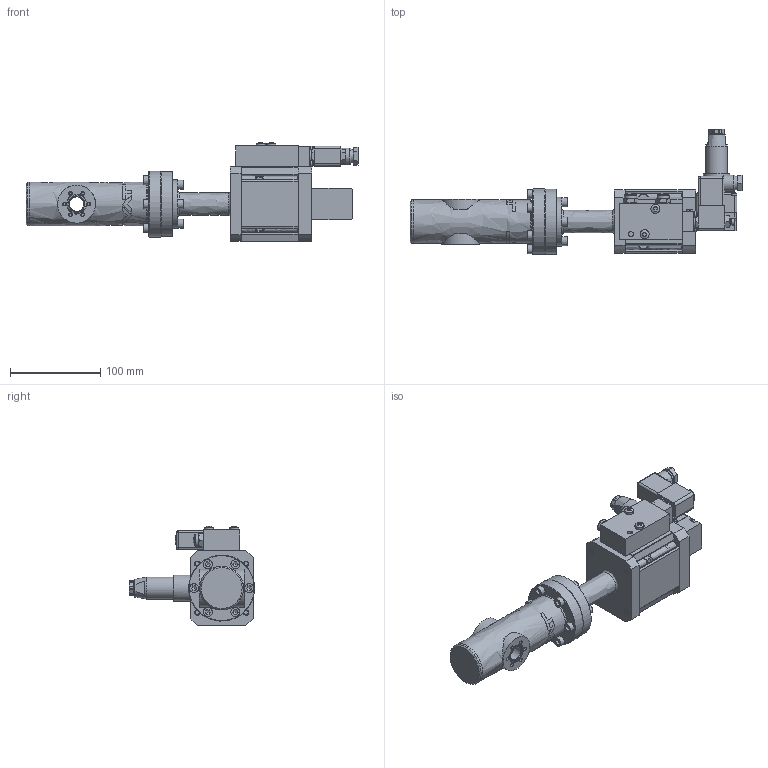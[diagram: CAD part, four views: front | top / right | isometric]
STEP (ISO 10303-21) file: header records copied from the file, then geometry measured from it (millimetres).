
FILE_DESCRIPTION((''),'2;1');
FILE_NAME('O:\MT\MT\Systeme\Cad\Datenexporte\www_vat_ch\98721.stp','2004-06-14T13:08:16',('User'),('SDRC'),'I-DEAS Master Series 9','UNIX','Yes');
FILE_SCHEMA(('CONFIG_CONTROL_DESIGN'));
Length unit declared in the file: millimetre
Assembly tree (48 placements, depth 0):
Bounding box: 367.35 x 138.42 x 109.84 mm (x, y, z)
Volume: 696013.4 mm3; surface area: 259856.8 mm2
Topology: 83 solids, 83 shells, 1424 faces, 3206 edges, 2144 vertices
Faces by surface type: bspline 1424
Entity records: 38676 total; most frequent: CARTESIAN_POINT 20223, ORIENTED_EDGE 4590, EDGE_CURVE 2295, VERTEX_POINT 1483, EDGE_LOOP 1268, FACE_OUTER_BOUND 1013, ADVANCED_FACE 1013, QUASI_UNIFORM_CURVE 737
